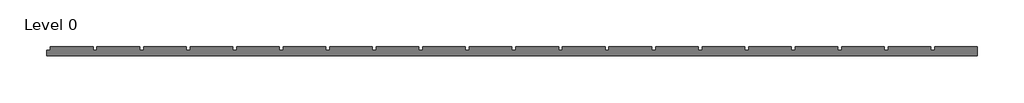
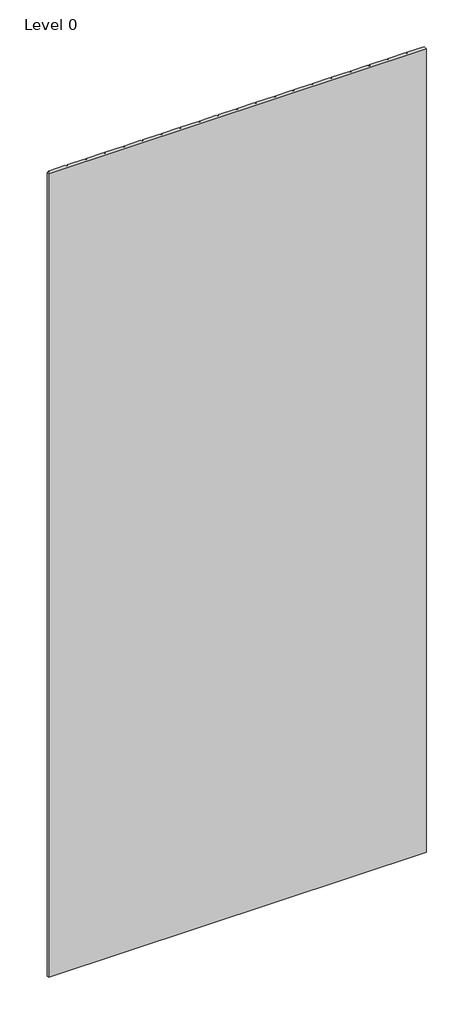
# One storey: 1 proxy.
"""IFC4 building model written with IfcOpenShell, lengths in millimetres."""

from ifc_helpers import new_model, si_unit, origin, place, context, project, spatial, transform, mapped, element, save
from components import generic_models_6df9696b

model = new_model("IFC4")

# Units and contexts
model_context = context("Model", 3, world=origin())
ifc_project = project(units=[si_unit("LENGTHUNIT", "METRE", prefix="MILLI")], contexts=[model_context])

# Site, building, storey
site = spatial("IfcSite", under=ifc_project)
building = spatial("IfcBuilding", under=site)
storey = spatial("IfcBuildingStorey", under=building, Name="Level 0", Elevation=0.0)

# Proxy
placement = place(None, origin())
generic_models_shape = generic_models_6df9696b(model_context)
element("IfcBuildingElementProxy", 1, Name="60 12mmSC", ObjectType="60 12mmSC", at=placement, inside=storey, context=model_context, shape_type="MappedRepresentation", body=[
    mapped(generic_models_shape, transform((-1488.2592417, 9878.1970366, 0.0), x_axis=(1.0, 0.0, 0.0), y_axis=(0.0, 1.0, 0.0), z_axis=(0.0, 0.0, 1.0))),
])

save(model, "model.ifc")
